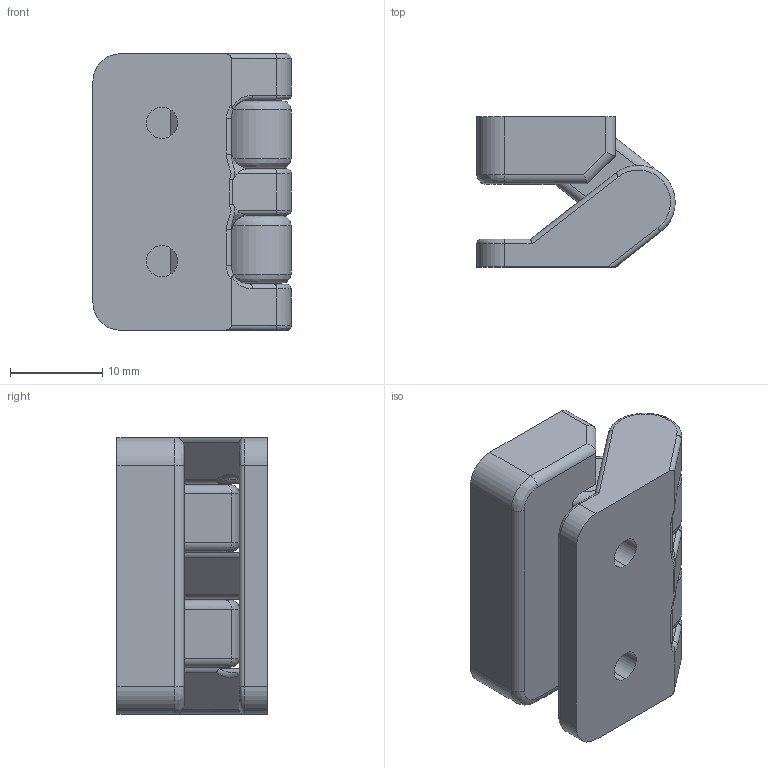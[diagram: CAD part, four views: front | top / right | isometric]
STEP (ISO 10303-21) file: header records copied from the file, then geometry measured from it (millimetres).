
FILE_DESCRIPTION (( 'STEP AP203' ), '1' );
FILE_NAME ('磁珜.STEP', '2024-01-02T07:36:27', ( '' ), ( '' ), 'SwSTEP 2.0', 'SolidWorks 2014', '' );
FILE_SCHEMA (( 'CONFIG_CONTROL_DESIGN' ));
Length unit declared in the file: millimetre
Products named in the file (3): 磁珜; 磁珜 V2-1; 磁珜 V2-2
Assembly tree (2 placements, depth 2):
  磁珜
    磁珜 V2-1
    磁珜 V2-2
Bounding box: 21.5 x 16.28 x 30 mm (x, y, z)
Volume: 6573.6 mm3; surface area: 4064.8 mm2
Topology: 2 solids, 2 shells, 147 faces, 354 edges, 221 vertices
Faces by surface type: cylinder 59, plane 44, bspline 28, cone 16
Entity records: 5430 total; most frequent: CARTESIAN_POINT 1880, ORIENTED_EDGE 708, DIRECTION 653, EDGE_CURVE 354, AXIS2_PLACEMENT_3D 246, VERTEX_POINT 221, VECTOR 161, EDGE_LOOP 161
